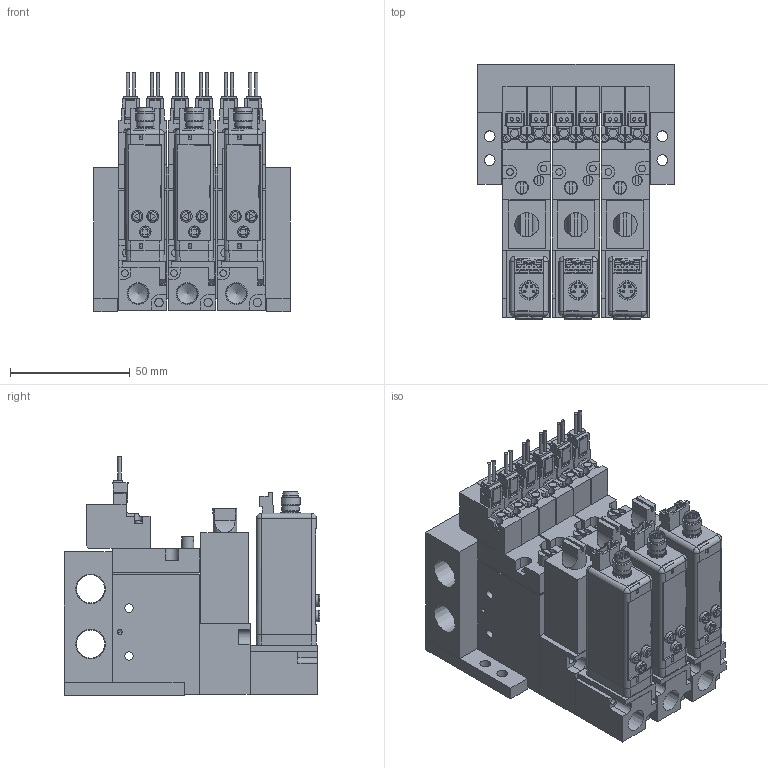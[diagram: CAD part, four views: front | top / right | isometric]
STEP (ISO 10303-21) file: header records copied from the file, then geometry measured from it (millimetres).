
FILE_DESCRIPTION(('STEP AP203'),'1');
FILE_NAME('BMPV32M2N20225BL303.stp','2025-06-16T08:59:31',(' '),(' '),'Spatial InterOp 3D',' ',' ');
FILE_SCHEMA(('CONFIG_CONTROL_DESIGN'));
Length unit declared in the file: millimetre
Products named in the file (40): BMPV32M2N20225BL303; MVS-202; ___-3(Rc); Filter Assy; __; _____; ___ ___; MB03; MB BRACKET; ___; upper plate-A; ______; ____; VACUUM VALVE FUNCTION MPV42-A
Assembly tree (39 placements, depth 2):
  BMPV32M2N20225BL303
    MVS-202
    ___-3(Rc)
    Filter Assy
    __
    _____
    ___ ___
    MVS-202
    ___-3(Rc)
    Filter Assy
    __
    _____
    ___ ___
    MB03
    MB BRACKET
    MB BRACKET
    MVS-202
    ___-3(Rc)
    Filter Assy
    __
    _____
    ___ ___
    ___
    upper plate-A
    ______
    ____
    VACUUM VALVE FUNCTION MPV42-A
    VACUUM VALVE FUNCTION MPV42-A
    ___
    upper plate-A
    ______
    ____
    VACUUM VALVE FUNCTION MPV42-A
    VACUUM VALVE FUNCTION MPV42-A
    ___
    upper plate-A
    ______
    ____
    VACUUM VALVE FUNCTION MPV42-A
    VACUUM VALVE FUNCTION MPV42-A
Bounding box: 82 x 106.6 x 99.75 mm (x, y, z)
Volume: 397236.4 mm3; surface area: 140865.5 mm2
Topology: 39 solids, 51 shells, 2336 faces, 5983 edges, 3925 vertices
Faces by surface type: plane 1902, cylinder 357, cone 56, sphere 12, torus 9
Full cylindrical faces by diameter (mm): 1 x12, 1.4 x12, 1.5 x3, 1.8 x6, 2 x6, 2.5 x10, 2.8 x12, 3 x12, 3.5 x34, 4 x3, 4.2 x3, 4.5 x16, 4.8 x9, 5 x9, 5.5 x3, 5.8 x6, 6 x3, 6.5 x15, 7 x3, 7.2 x3, 7.9 x3, 8 x6, 8.2 x3, 8.759 x3, 11.776 x2
Entity records: 70476 total; most frequent: CARTESIAN_POINT 12285, ORIENTED_EDGE 11248, DIRECTION 11232, EDGE_CURVE 5624, LINE 4672, VECTOR 4672, VERTEX_POINT 3865, AXIS2_PLACEMENT_3D 3280
